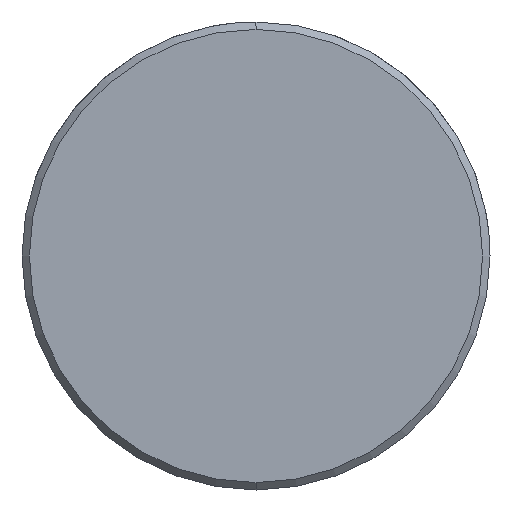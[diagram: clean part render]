
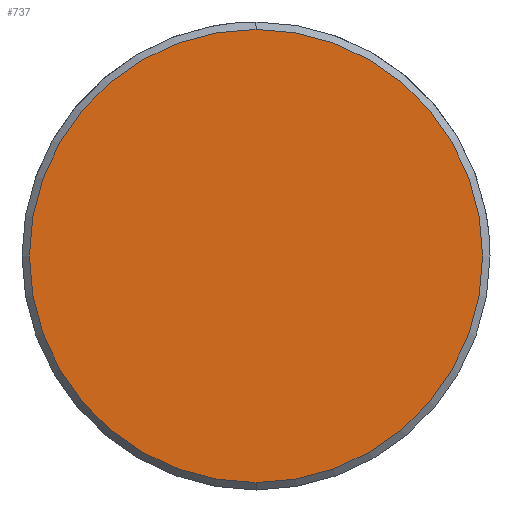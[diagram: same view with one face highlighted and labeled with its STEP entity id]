
A CAD part, left-side view. The second image highlights one B-rep face of the part: STEP entity #737.
In plain terms, the highlighted planar face has unit normal (-1, 0, 0).
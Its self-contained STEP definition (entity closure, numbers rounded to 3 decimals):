
#669=CARTESIAN_POINT('Vertex',(0.,0.,-9.2)) ;
#672=CARTESIAN_POINT('Axis2P3D Location',(0.,0.,0.)) ;
#676=CARTESIAN_POINT('Vertex',(0.,9.2,0.)) ;
#679=CARTESIAN_POINT('Axis2P3D Location',(0.,0.,0.)) ;
#683=CARTESIAN_POINT('Vertex',(0.,0.,9.2)) ;
#705=CARTESIAN_POINT('Axis2P3D Location',(0.,0.,0.)) ;
#709=CARTESIAN_POINT('Vertex',(0.,-9.2,0.)) ;
#712=CARTESIAN_POINT('Axis2P3D Location',(0.,0.,0.)) ;
#726=CARTESIAN_POINT('Axis2P3D Location',(0.,0.,0.)) ;
#673=DIRECTION('Axis2P3D Direction',(1.,0.,-0.)) ;
#680=DIRECTION('Axis2P3D Direction',(1.,0.,-0.)) ;
#706=DIRECTION('Axis2P3D Direction',(1.,0.,-0.)) ;
#713=DIRECTION('Axis2P3D Direction',(1.,0.,-0.)) ;
#727=DIRECTION('Axis2P3D Direction',(1.,0.,-0.)) ;
#728=DIRECTION('Axis2P3D XDirection',(-0.,0.,-1.)) ;
#674=AXIS2_PLACEMENT_3D('Circle Axis2P3D',#672,#673,$) ;
#681=AXIS2_PLACEMENT_3D('Circle Axis2P3D',#679,#680,$) ;
#707=AXIS2_PLACEMENT_3D('Circle Axis2P3D',#705,#706,$) ;
#714=AXIS2_PLACEMENT_3D('Circle Axis2P3D',#712,#713,$) ;
#729=AXIS2_PLACEMENT_3D('Plane Axis2P3D',#726,#727,#728) ;
#732=ORIENTED_EDGE('',*,*,#678,.F.) ;
#733=ORIENTED_EDGE('',*,*,#716,.F.) ;
#734=ORIENTED_EDGE('',*,*,#711,.F.) ;
#735=ORIENTED_EDGE('',*,*,#685,.F.) ;
#737=ADVANCED_FACE('549-16X160',(#736),#730,.F.) ;
#675=CIRCLE('generated circle',#674,9.2) ;
#682=CIRCLE('generated circle',#681,9.2) ;
#708=CIRCLE('generated circle',#707,9.2) ;
#715=CIRCLE('generated circle',#714,9.2) ;
#678=EDGE_CURVE('',#670,#677,#675,.T.) ;
#685=EDGE_CURVE('',#677,#684,#682,.T.) ;
#711=EDGE_CURVE('',#684,#710,#708,.T.) ;
#716=EDGE_CURVE('',#710,#670,#715,.T.) ;
#731=EDGE_LOOP('',(#732,#733,#734,#735)) ;
#736=FACE_OUTER_BOUND('',#731,.T.) ;
#730=PLANE('Plane',#729) ;
#670=VERTEX_POINT('',#669) ;
#677=VERTEX_POINT('',#676) ;
#684=VERTEX_POINT('',#683) ;
#710=VERTEX_POINT('',#709) ;
